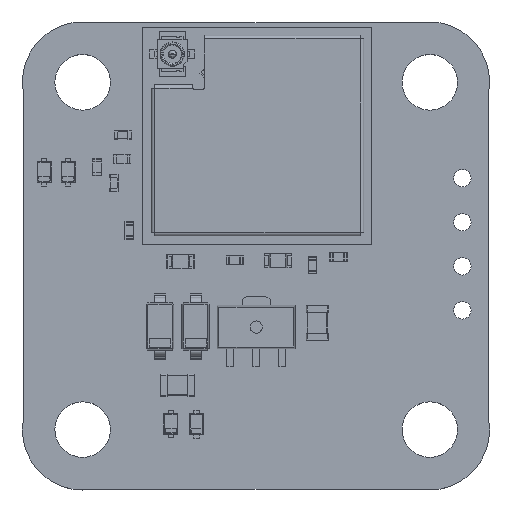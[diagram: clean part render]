
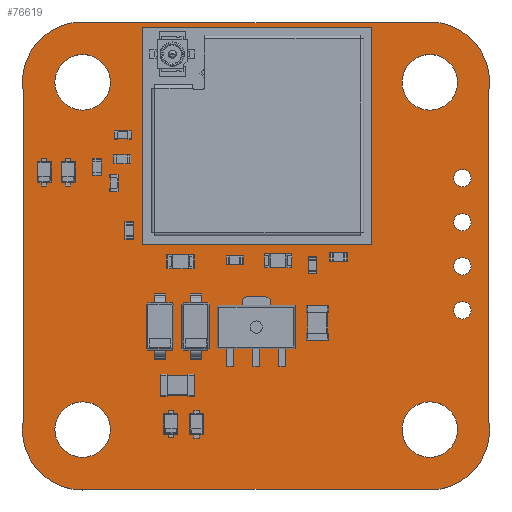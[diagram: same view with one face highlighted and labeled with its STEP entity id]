
A CAD part, top view. The second image highlights one B-rep face of the part: STEP entity #76619.
In plain terms, the highlighted planar face has unit normal (0, 0, 1).
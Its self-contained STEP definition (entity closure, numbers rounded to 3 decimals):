
#76382 = VERTEX_POINT('',#76383);
#76383 = CARTESIAN_POINT('',(61.05,-56.25,0.6));
#76389 = EDGE_CURVE('',#76382,#76390,#76392,.T.);
#76390 = VERTEX_POINT('',#76391);
#76391 = CARTESIAN_POINT('',(65.05,-60.25,0.6));
#76392 = CIRCLE('',#76393,3.453);
#76393 = AXIS2_PLACEMENT_3D('',#76394,#76395,#76396);
#76394 = CARTESIAN_POINT('',(61.65,-59.65,0.6));
#76395 = DIRECTION('',(0.,0.,-1.));
#76396 = DIRECTION('',(-0.174,0.985,0.));
#76424 = VERTEX_POINT('',#76425);
#76425 = CARTESIAN_POINT('',(42.25,-56.25,0.6));
#76431 = EDGE_CURVE('',#76424,#76382,#76432,.T.);
#76432 = LINE('',#76433,#76434);
#76433 = CARTESIAN_POINT('',(42.25,-56.25,0.6));
#76434 = VECTOR('',#76435,1.);
#76435 = DIRECTION('',(1.,0.,0.));
#76453 = EDGE_CURVE('',#76390,#76454,#76456,.T.);
#76454 = VERTEX_POINT('',#76455);
#76455 = CARTESIAN_POINT('',(65.05,-79.1,0.6));
#76456 = LINE('',#76457,#76458);
#76457 = CARTESIAN_POINT('',(65.05,-60.25,0.6));
#76458 = VECTOR('',#76459,1.);
#76459 = DIRECTION('',(0.,-1.,0.));
#76619 = ADVANCED_FACE('',(#76620,#76666,#76677,#76688,#76699,#76710,
    #76721,#76732,#76743),#76754,.T.);
#76620 = FACE_BOUND('',#76621,.T.);
#76621 = EDGE_LOOP('',(#76622,#76623,#76624,#76633,#76641,#76650,#76658,
    #76665));
#76622 = ORIENTED_EDGE('',*,*,#76389,.F.);
#76623 = ORIENTED_EDGE('',*,*,#76431,.F.);
#76624 = ORIENTED_EDGE('',*,*,#76625,.F.);
#76625 = EDGE_CURVE('',#76626,#76424,#76628,.T.);
#76626 = VERTEX_POINT('',#76627);
#76627 = CARTESIAN_POINT('',(38.25,-60.25,0.6));
#76628 = CIRCLE('',#76629,3.453);
#76629 = AXIS2_PLACEMENT_3D('',#76630,#76631,#76632);
#76630 = CARTESIAN_POINT('',(41.65,-59.65,0.6));
#76631 = DIRECTION('',(0.,0.,-1.));
#76632 = DIRECTION('',(-0.985,-0.174,-0.));
#76633 = ORIENTED_EDGE('',*,*,#76634,.F.);
#76634 = EDGE_CURVE('',#76635,#76626,#76637,.T.);
#76635 = VERTEX_POINT('',#76636);
#76636 = CARTESIAN_POINT('',(38.25,-79.1,0.6));
#76637 = LINE('',#76638,#76639);
#76638 = CARTESIAN_POINT('',(38.25,-79.1,0.6));
#76639 = VECTOR('',#76640,1.);
#76640 = DIRECTION('',(0.,1.,0.));
#76641 = ORIENTED_EDGE('',*,*,#76642,.F.);
#76642 = EDGE_CURVE('',#76643,#76635,#76645,.T.);
#76643 = VERTEX_POINT('',#76644);
#76644 = CARTESIAN_POINT('',(42.25,-83.1,0.6));
#76645 = CIRCLE('',#76646,3.453);
#76646 = AXIS2_PLACEMENT_3D('',#76647,#76648,#76649);
#76647 = CARTESIAN_POINT('',(41.65,-79.7,0.6));
#76648 = DIRECTION('',(0.,0.,-1.));
#76649 = DIRECTION('',(0.174,-0.985,0.));
#76650 = ORIENTED_EDGE('',*,*,#76651,.F.);
#76651 = EDGE_CURVE('',#76652,#76643,#76654,.T.);
#76652 = VERTEX_POINT('',#76653);
#76653 = CARTESIAN_POINT('',(61.05,-83.1,0.6));
#76654 = LINE('',#76655,#76656);
#76655 = CARTESIAN_POINT('',(61.05,-83.1,0.6));
#76656 = VECTOR('',#76657,1.);
#76657 = DIRECTION('',(-1.,0.,0.));
#76658 = ORIENTED_EDGE('',*,*,#76659,.F.);
#76659 = EDGE_CURVE('',#76454,#76652,#76660,.T.);
#76660 = CIRCLE('',#76661,3.453);
#76661 = AXIS2_PLACEMENT_3D('',#76662,#76663,#76664);
#76662 = CARTESIAN_POINT('',(61.65,-79.7,0.6));
#76663 = DIRECTION('',(0.,0.,-1.));
#76664 = DIRECTION('',(0.985,0.174,0.));
#76665 = ORIENTED_EDGE('',*,*,#76453,.F.);
#76666 = FACE_BOUND('',#76667,.T.);
#76667 = EDGE_LOOP('',(#76668));
#76668 = ORIENTED_EDGE('',*,*,#76669,.T.);
#76669 = EDGE_CURVE('',#76670,#76670,#76672,.T.);
#76670 = VERTEX_POINT('',#76671);
#76671 = CARTESIAN_POINT('',(41.663,-81.273,0.6));
#76672 = CIRCLE('',#76673,1.6);
#76673 = AXIS2_PLACEMENT_3D('',#76674,#76675,#76676);
#76674 = CARTESIAN_POINT('',(41.663,-79.673,0.6));
#76675 = DIRECTION('',(-0.,0.,-1.));
#76676 = DIRECTION('',(-0.,-1.,0.));
#76677 = FACE_BOUND('',#76678,.T.);
#76678 = EDGE_LOOP('',(#76679));
#76679 = ORIENTED_EDGE('',*,*,#76680,.T.);
#76680 = EDGE_CURVE('',#76681,#76681,#76683,.T.);
#76681 = VERTEX_POINT('',#76682);
#76682 = CARTESIAN_POINT('',(61.663,-81.273,0.6));
#76683 = CIRCLE('',#76684,1.6);
#76684 = AXIS2_PLACEMENT_3D('',#76685,#76686,#76687);
#76685 = CARTESIAN_POINT('',(61.663,-79.673,0.6));
#76686 = DIRECTION('',(-0.,0.,-1.));
#76687 = DIRECTION('',(-0.,-1.,0.));
#76688 = FACE_BOUND('',#76689,.T.);
#76689 = EDGE_LOOP('',(#76690));
#76690 = ORIENTED_EDGE('',*,*,#76691,.T.);
#76691 = EDGE_CURVE('',#76692,#76692,#76694,.T.);
#76692 = VERTEX_POINT('',#76693);
#76693 = CARTESIAN_POINT('',(63.54,-73.31,0.6));
#76694 = CIRCLE('',#76695,0.5);
#76695 = AXIS2_PLACEMENT_3D('',#76696,#76697,#76698);
#76696 = CARTESIAN_POINT('',(63.54,-72.81,0.6));
#76697 = DIRECTION('',(-0.,0.,-1.));
#76698 = DIRECTION('',(0.,-1.,0.));
#76699 = FACE_BOUND('',#76700,.T.);
#76700 = EDGE_LOOP('',(#76701));
#76701 = ORIENTED_EDGE('',*,*,#76702,.T.);
#76702 = EDGE_CURVE('',#76703,#76703,#76705,.T.);
#76703 = VERTEX_POINT('',#76704);
#76704 = CARTESIAN_POINT('',(63.54,-70.77,0.6));
#76705 = CIRCLE('',#76706,0.5);
#76706 = AXIS2_PLACEMENT_3D('',#76707,#76708,#76709);
#76707 = CARTESIAN_POINT('',(63.54,-70.27,0.6));
#76708 = DIRECTION('',(-0.,0.,-1.));
#76709 = DIRECTION('',(0.,-1.,0.));
#76710 = FACE_BOUND('',#76711,.T.);
#76711 = EDGE_LOOP('',(#76712));
#76712 = ORIENTED_EDGE('',*,*,#76713,.T.);
#76713 = EDGE_CURVE('',#76714,#76714,#76716,.T.);
#76714 = VERTEX_POINT('',#76715);
#76715 = CARTESIAN_POINT('',(41.663,-61.273,0.6));
#76716 = CIRCLE('',#76717,1.6);
#76717 = AXIS2_PLACEMENT_3D('',#76718,#76719,#76720);
#76718 = CARTESIAN_POINT('',(41.663,-59.673,0.6));
#76719 = DIRECTION('',(-0.,0.,-1.));
#76720 = DIRECTION('',(-0.,-1.,0.));
#76721 = FACE_BOUND('',#76722,.T.);
#76722 = EDGE_LOOP('',(#76723));
#76723 = ORIENTED_EDGE('',*,*,#76724,.T.);
#76724 = EDGE_CURVE('',#76725,#76725,#76727,.T.);
#76725 = VERTEX_POINT('',#76726);
#76726 = CARTESIAN_POINT('',(63.54,-68.23,0.6));
#76727 = CIRCLE('',#76728,0.5);
#76728 = AXIS2_PLACEMENT_3D('',#76729,#76730,#76731);
#76729 = CARTESIAN_POINT('',(63.54,-67.73,0.6));
#76730 = DIRECTION('',(-0.,0.,-1.));
#76731 = DIRECTION('',(0.,-1.,0.));
#76732 = FACE_BOUND('',#76733,.T.);
#76733 = EDGE_LOOP('',(#76734));
#76734 = ORIENTED_EDGE('',*,*,#76735,.T.);
#76735 = EDGE_CURVE('',#76736,#76736,#76738,.T.);
#76736 = VERTEX_POINT('',#76737);
#76737 = CARTESIAN_POINT('',(63.54,-65.69,0.6));
#76738 = CIRCLE('',#76739,0.5);
#76739 = AXIS2_PLACEMENT_3D('',#76740,#76741,#76742);
#76740 = CARTESIAN_POINT('',(63.54,-65.19,0.6));
#76741 = DIRECTION('',(-0.,0.,-1.));
#76742 = DIRECTION('',(0.,-1.,0.));
#76743 = FACE_BOUND('',#76744,.T.);
#76744 = EDGE_LOOP('',(#76745));
#76745 = ORIENTED_EDGE('',*,*,#76746,.T.);
#76746 = EDGE_CURVE('',#76747,#76747,#76749,.T.);
#76747 = VERTEX_POINT('',#76748);
#76748 = CARTESIAN_POINT('',(61.663,-61.273,0.6));
#76749 = CIRCLE('',#76750,1.6);
#76750 = AXIS2_PLACEMENT_3D('',#76751,#76752,#76753);
#76751 = CARTESIAN_POINT('',(61.663,-59.673,0.6));
#76752 = DIRECTION('',(-0.,0.,-1.));
#76753 = DIRECTION('',(-0.,-1.,0.));
#76754 = PLANE('',#76755);
#76755 = AXIS2_PLACEMENT_3D('',#76756,#76757,#76758);
#76756 = CARTESIAN_POINT('',(0.,0.,0.6));
#76757 = DIRECTION('',(0.,0.,1.));
#76758 = DIRECTION('',(1.,0.,-0.));
